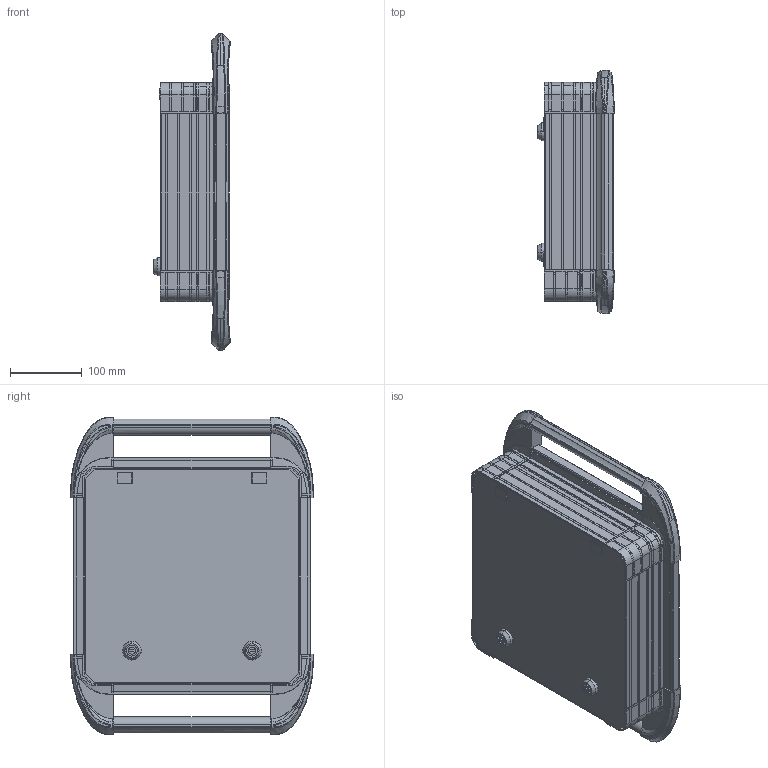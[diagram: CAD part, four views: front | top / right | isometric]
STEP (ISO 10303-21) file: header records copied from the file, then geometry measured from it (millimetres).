
FILE_DESCRIPTION (( 'STEP AP214' ), '1' );
FILE_NAME ('KL-1-80-230-230.step', '2019-09-10T08:56:16', ( 'IT Division' ), ( 'IT' ), 'SwSTEP 2.0', 'SolidWorks 2016', '' );
FILE_SCHEMA (( 'AUTOMOTIVE_DESIGN' ));
Length unit declared in the file: millimetre
Products named in the file (1): KL-1-80-230-230
Bounding box: 106.34 x 337.27 x 441.68 mm (x, y, z)
Volume: 1518907.1 mm3; surface area: 963625.9 mm2
Topology: 4 solids, 8 shells, 3990 faces, 11350 edges, 7338 vertices
Faces by surface type: plane 1656, cylinder 1067, bspline 1041, cone 174, sphere 44, torus 8
Entity records: 308778 total; most frequent: CARTESIAN_POINT 174088, ORIENTED_EDGE 22620, DIRECTION 13726, EDGE_CURVE 11310, VERTEX_POINT 7318, VECTOR 5562, LINE 5562, B_SPLINE_CURVE_WITH_KNOTS 4520
